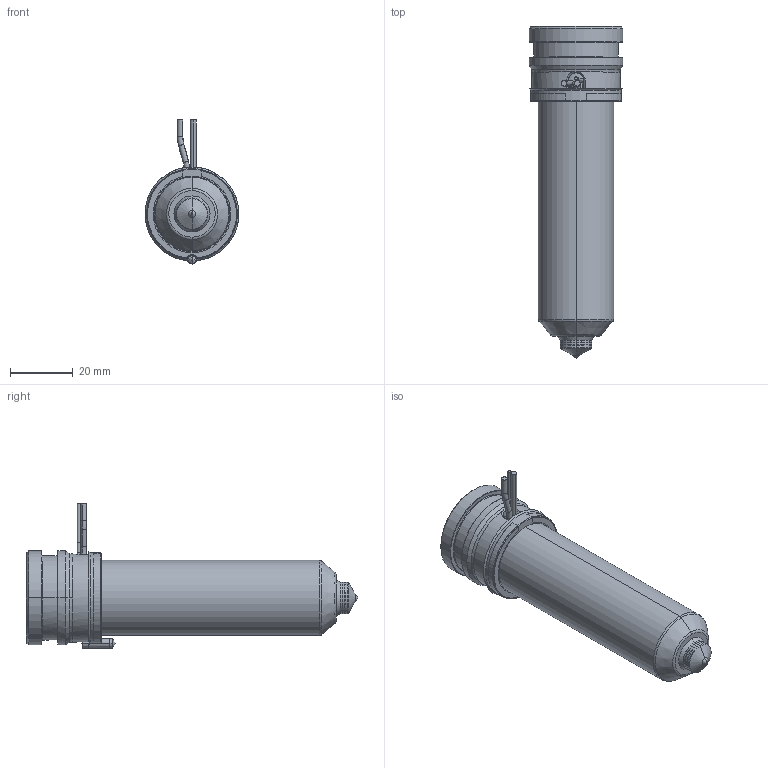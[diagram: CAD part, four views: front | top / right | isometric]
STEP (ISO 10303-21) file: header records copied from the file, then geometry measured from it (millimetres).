
FILE_DESCRIPTION((''),'2;1');
FILE_NAME('MPN-10-29-TS10-086-A','2026-02-05T12:32:53',('UPTIO'),('Thermoplay S.p.A.'),'CREO PARAMETRIC BY PTC INC, 2023494','CREO PARAMETRIC BY PTC INC, 2023494','');
FILE_SCHEMA(('CONFIG_CONTROL_DESIGN','SHAPE_APPEARANCE_LAYERS_GROUPS'));
Length unit declared in the file: millimetre
Products named in the file (1): MPN-10-29-TS10-086-A
Bounding box: 30 x 106 x 46 mm (x, y, z)
Volume: 34022.8 mm3; surface area: 33670 mm2
Topology: 2 solids, 3 shells, 552 faces, 1455 edges, 898 vertices
Faces by surface type: cylinder 180, plane 145, bspline 78, torus 68, cone 66, sphere 11, extrusion 4
Entity records: 29361 total; most frequent: CARTESIAN_POINT 12982, ORIENTED_EDGE 2894, DIRECTION 2651, EDGE_CURVE 1447, AXIS2_PLACEMENT_3D 1051, VERTEX_POINT 898, EDGE_LOOP 581, CIRCLE 580
